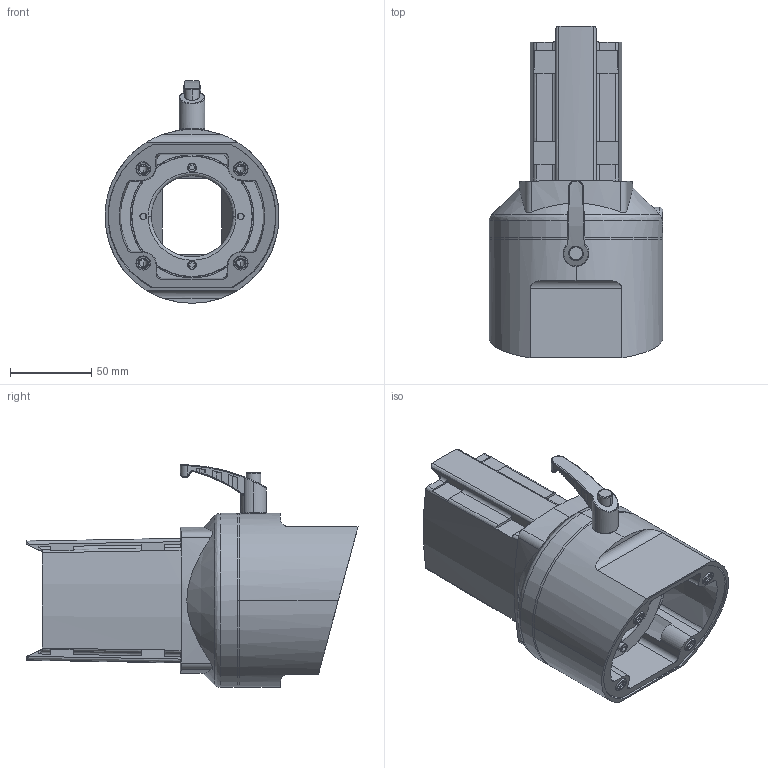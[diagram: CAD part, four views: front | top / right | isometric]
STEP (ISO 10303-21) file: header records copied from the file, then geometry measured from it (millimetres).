
FILE_DESCRIPTION (( 'STEP AP203' ), '1' );
FILE_NAME ('s2macf.STEP', '2009-09-24T20:22:01', ( 'Hoffman User' ), ( 'Hoffman Enclosures' ), 'SwSTEP 2.0', 'SolidWorks 2009', '' );
FILE_SCHEMA (( 'CONFIG_CONTROL_DESIGN' ));
Length unit declared in the file: inch
Products named in the file (3): 87948798; 87948785; s2macf
Assembly tree (2 placements, depth 2):
  s2macf
    87948798
    87948785
Bounding box: 107 x 204.33 x 137 mm (x, y, z)
Volume: 605677.8 mm3; surface area: 161334.8 mm2
Topology: 10 solids, 10 shells, 932 faces, 2393 edges, 1503 vertices
Faces by surface type: cylinder 341, plane 256, bspline 215, cone 120
Entity records: 38432 total; most frequent: CARTESIAN_POINT 17437, ORIENTED_EDGE 4762, DIRECTION 3829, EDGE_CURVE 2381, VERTEX_POINT 1503, AXIS2_PLACEMENT_3D 1439, EDGE_LOOP 988, VECTOR 951
